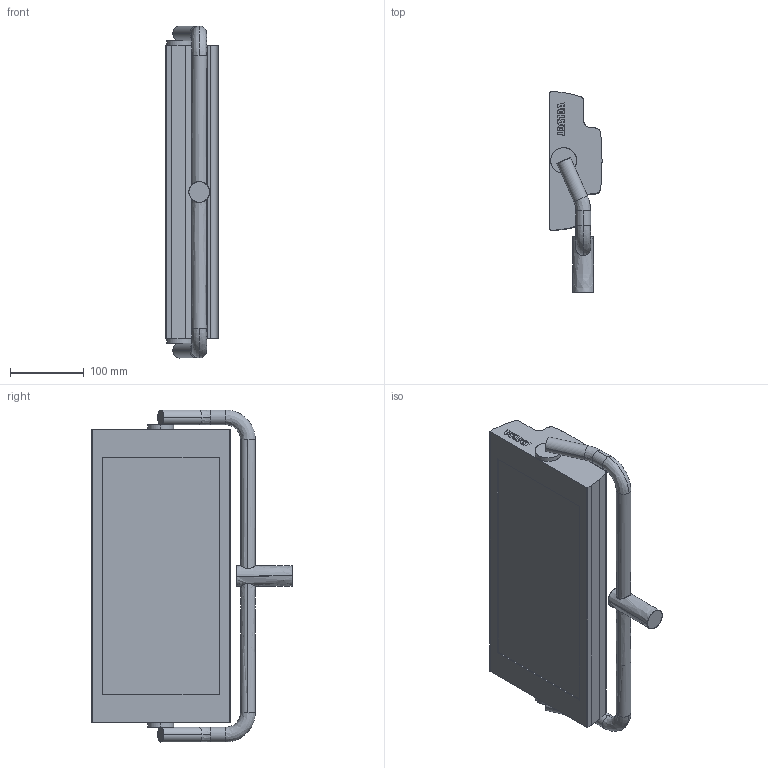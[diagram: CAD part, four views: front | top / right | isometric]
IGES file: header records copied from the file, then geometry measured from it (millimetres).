
Start section: SolidWorks IGES file using analytic representation for surfaces
Global section: file name: C:\Users\Eddy\Desktop\MINI 1 ST.IGS; native system: SolidWorks 2023; preprocessor: SolidWorks 2023; author: Eddy; date: 240715.150227; units: millimetre
Bounding box: 70.41 x 271.29 x 449 mm (x, y, z)
Surface area: 261304.4 mm2 (no closed solid volume)
Topology: 0 solids, 0 shells, 292 faces, 3782 edges, 3782 vertices
Faces by surface type: bspline 262, revolution 30
